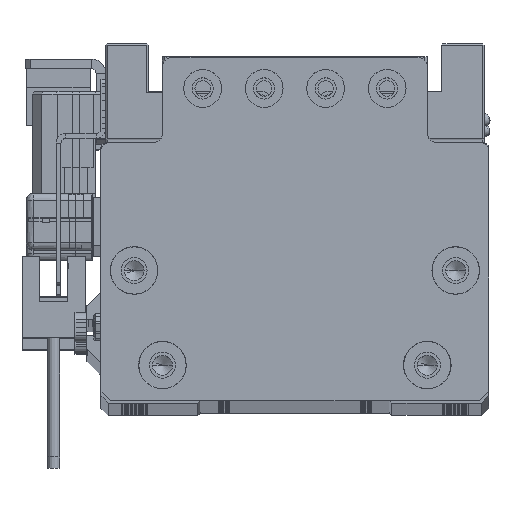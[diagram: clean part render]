
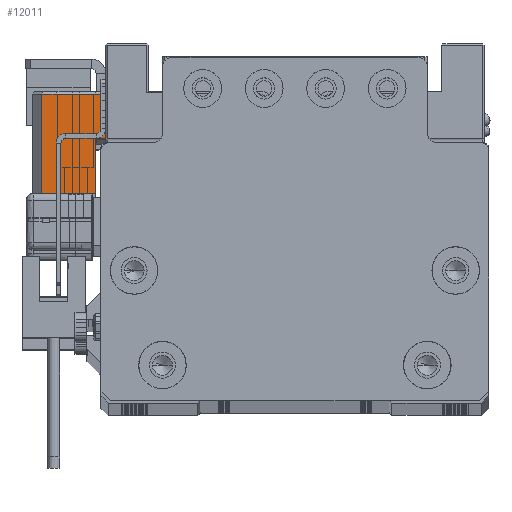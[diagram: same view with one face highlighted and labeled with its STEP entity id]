
A CAD part, top view. The second image highlights one B-rep face of the part: STEP entity #12011.
In plain terms, the highlighted planar face has unit normal (0, 0, 1) as drawn and (1, 0, 0) by its records, which use the part's own axes.
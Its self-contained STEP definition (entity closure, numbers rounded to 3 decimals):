
#370 = DIRECTION ( 'NONE',  ( 0., -1., 0. ) ) ;
#2080 = EDGE_CURVE ( 'NONE', #39339, #5307, #6657, .T. ) ;
#3627 = ORIENTED_EDGE ( 'NONE', *, *, #54249, .F. ) ;
#3706 = VERTEX_POINT ( 'NONE', #11515 ) ;
#3848 = FACE_OUTER_BOUND ( 'NONE', #60605, .T. ) ;
#4096 = LINE ( 'NONE', #68952, #46865 ) ;
#5246 = PLANE ( 'NONE',  #21452 ) ;
#5307 = VERTEX_POINT ( 'NONE', #41449 ) ;
#6210 = ORIENTED_EDGE ( 'NONE', *, *, #44634, .T. ) ;
#6657 = LINE ( 'NONE', #28398, #31913 ) ;
#9983 = VECTOR ( 'NONE', #21374, 1000. ) ;
#10531 = CARTESIAN_POINT ( 'NONE',  ( 17., 10.25, -15.5 ) ) ;
#10613 = ORIENTED_EDGE ( 'NONE', *, *, #52265, .T. ) ;
#11515 = CARTESIAN_POINT ( 'NONE',  ( 17., 10.25, -15.5 ) ) ;
#12011 = ADVANCED_FACE ( 'NONE', ( #3848 ), #5246, .T. ) ;
#12905 = CARTESIAN_POINT ( 'NONE',  ( 17., 0.75, -15.5 ) ) ;
#13260 = CARTESIAN_POINT ( 'NONE',  ( 17., 0.75, -13.3 ) ) ;
#15773 = CARTESIAN_POINT ( 'NONE',  ( 17., 0.75, -15.5 ) ) ;
#16826 = DIRECTION ( 'NONE',  ( 0., 0., 1. ) ) ;
#18114 = DIRECTION ( 'NONE',  ( 0., -1., 0. ) ) ;
#18344 = VERTEX_POINT ( 'NONE', #46075 ) ;
#20397 = ORIENTED_EDGE ( 'NONE', *, *, #2080, .F. ) ;
#21374 = DIRECTION ( 'NONE',  ( 0., 0., 1. ) ) ;
#21452 = AXIS2_PLACEMENT_3D ( 'NONE', #57813, #68702, #48014 ) ;
#22090 = LINE ( 'NONE', #10531, #68450 ) ;
#22788 = LINE ( 'NONE', #44850, #29766 ) ;
#26369 = CARTESIAN_POINT ( 'NONE',  ( 17., 10.25, -2. ) ) ;
#28398 = CARTESIAN_POINT ( 'NONE',  ( 17., -10.75, -13.3 ) ) ;
#29351 = EDGE_CURVE ( 'NONE', #3706, #58690, #22090, .T. ) ;
#29766 = VECTOR ( 'NONE', #65174, 1000. ) ;
#31913 = VECTOR ( 'NONE', #370, 1000. ) ;
#32099 = ORIENTED_EDGE ( 'NONE', *, *, #54969, .F. ) ;
#36443 = LINE ( 'NONE', #15773, #9983 ) ;
#36689 = DIRECTION ( 'NONE',  ( 0., 0., 1. ) ) ;
#39339 = VERTEX_POINT ( 'NONE', #13260 ) ;
#41449 = CARTESIAN_POINT ( 'NONE',  ( 17., -10.75, -13.3 ) ) ;
#44634 = EDGE_CURVE ( 'NONE', #57586, #3706, #22788, .T. ) ;
#44850 = CARTESIAN_POINT ( 'NONE',  ( 17., -10.75, -15.5 ) ) ;
#46075 = CARTESIAN_POINT ( 'NONE',  ( 17., -10.75, -2. ) ) ;
#46865 = VECTOR ( 'NONE', #36689, 1000. ) ;
#48014 = DIRECTION ( 'NONE',  ( 0., 0., -1. ) ) ;
#50328 = CARTESIAN_POINT ( 'NONE',  ( 17., -10.75, -2. ) ) ;
#51635 = ORIENTED_EDGE ( 'NONE', *, *, #29351, .T. ) ;
#52265 = EDGE_CURVE ( 'NONE', #58690, #18344, #66085, .T. ) ;
#54249 = EDGE_CURVE ( 'NONE', #5307, #18344, #4096, .T. ) ;
#54969 = EDGE_CURVE ( 'NONE', #57586, #39339, #36443, .T. ) ;
#57586 = VERTEX_POINT ( 'NONE', #12905 ) ;
#57813 = CARTESIAN_POINT ( 'NONE',  ( 17., -10.75, -15.5 ) ) ;
#57948 = VECTOR ( 'NONE', #18114, 1000. ) ;
#58690 = VERTEX_POINT ( 'NONE', #26369 ) ;
#60605 = EDGE_LOOP ( 'NONE', ( #6210, #51635, #10613, #3627, #20397, #32099 ) ) ;
#65174 = DIRECTION ( 'NONE',  ( 0., 1., 0. ) ) ;
#66085 = LINE ( 'NONE', #50328, #57948 ) ;
#68450 = VECTOR ( 'NONE', #16826, 1000. ) ;
#68702 = DIRECTION ( 'NONE',  ( 1., 0., 0. ) ) ;
#68952 = CARTESIAN_POINT ( 'NONE',  ( 17., -10.75, -15.5 ) ) ;
